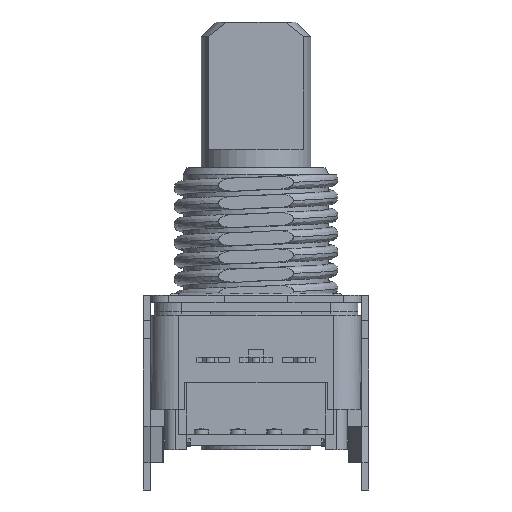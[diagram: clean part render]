
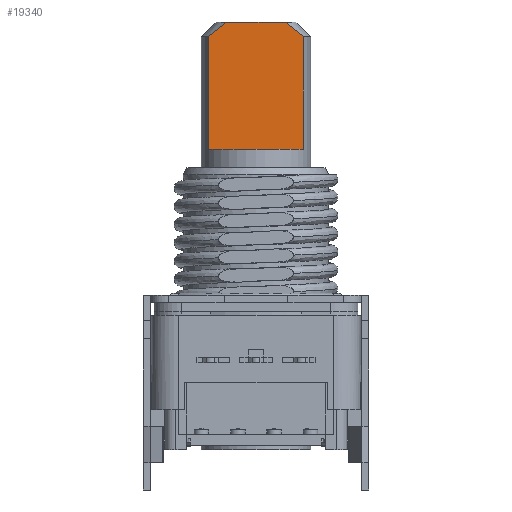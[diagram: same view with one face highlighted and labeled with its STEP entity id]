
A CAD part, front view. The second image highlights one B-rep face of the part: STEP entity #19340.
In plain terms, the highlighted planar face has unit normal (-0.001, -1, 0).
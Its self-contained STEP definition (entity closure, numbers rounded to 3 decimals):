
#19213=CARTESIAN_POINT('',(1.608,-1.501,22.49));
#19214=VERTEX_POINT('',#19213);
#19215=CARTESIAN_POINT('',(2.597,-1.502,21.69));
#19216=VERTEX_POINT('',#19215);
#19217=CARTESIAN_POINT('',(1.608,-1.501,22.49));
#19218=CARTESIAN_POINT('',(2.026,-1.502,22.184));
#19219=CARTESIAN_POINT('',(2.597,-1.502,21.69));
#19227=(BOUNDED_CURVE()B_SPLINE_CURVE(2,(#19217,#19218,#19219),.UNSPECIFIED.,.F.,.U.)B_SPLINE_CURVE_WITH_KNOTS((3,3),(0.0,0.242),.UNSPECIFIED.)CURVE()GEOMETRIC_REPRESENTATION_ITEM()RATIONAL_B_SPLINE_CURVE((1.0,1.076,1.117))REPRESENTATION_ITEM(''));
#19228=EDGE_CURVE('',#19214,#19216,#19227,.T.);
#19230=CARTESIAN_POINT('',(-2.599,-1.498,21.69));
#19231=VERTEX_POINT('',#19230);
#19239=CARTESIAN_POINT('',(-1.611,-1.499,22.49));
#19240=VERTEX_POINT('',#19239);
#19241=CARTESIAN_POINT('',(-2.599,-1.498,21.69));
#19242=CARTESIAN_POINT('',(-2.029,-1.498,22.184));
#19243=CARTESIAN_POINT('',(-1.611,-1.499,22.49));
#19251=(BOUNDED_CURVE()B_SPLINE_CURVE(2,(#19241,#19242,#19243),.UNSPECIFIED.,.F.,.U.)B_SPLINE_CURVE_WITH_KNOTS((3,3),(0.782,1.024),.UNSPECIFIED.)CURVE()GEOMETRIC_REPRESENTATION_ITEM()RATIONAL_B_SPLINE_CURVE((1.117,1.076,1.0))REPRESENTATION_ITEM(''));
#19252=EDGE_CURVE('',#19231,#19240,#19251,.T.);
#19270=CARTESIAN_POINT('',(2.597,-1.502,15.49));
#19271=VERTEX_POINT('',#19270);
#19272=CARTESIAN_POINT('',(2.597,-1.502,21.69));
#19273=DIRECTION('',(0.0,0.0,-1.0));
#19274=VECTOR('',#19273,6.2);
#19275=LINE('',#19272,#19274);
#19276=EDGE_CURVE('',#19216,#19271,#19275,.T.);
#19278=CARTESIAN_POINT('',(-2.599,-1.498,15.49));
#19279=VERTEX_POINT('',#19278);
#19287=CARTESIAN_POINT('',(-2.599,-1.498,15.49));
#19288=DIRECTION('',(0.0,0.0,1.0));
#19289=VECTOR('',#19288,6.2);
#19290=LINE('',#19287,#19289);
#19291=EDGE_CURVE('',#19279,#19231,#19290,.T.);
#19313=CARTESIAN_POINT('',(2.597,-1.502,15.49));
#19314=DIRECTION('',(-1.,0.001,0.0));
#19315=VECTOR('',#19314,5.196);
#19316=LINE('',#19313,#19315);
#19317=EDGE_CURVE('',#19271,#19279,#19316,.T.);
#19322=CARTESIAN_POINT('',(7.108,-1.506,22.49));
#19323=DIRECTION('',(0.001,1.,0.));
#19324=DIRECTION('',(0.0,0.0,1.0));
#19325=AXIS2_PLACEMENT_3D('',#19322,#19323,#19324);
#19326=PLANE('',#19325);
#19327=ORIENTED_EDGE('',*,*,#19252,.F.);
#19328=ORIENTED_EDGE('',*,*,#19291,.F.);
#19329=ORIENTED_EDGE('',*,*,#19317,.F.);
#19330=ORIENTED_EDGE('',*,*,#19276,.F.);
#19331=ORIENTED_EDGE('',*,*,#19228,.F.);
#19332=CARTESIAN_POINT('',(-1.611,-1.499,22.49));
#19333=DIRECTION('',(1.,-0.001,0.0));
#19334=VECTOR('',#19333,3.219);
#19335=LINE('',#19332,#19334);
#19336=EDGE_CURVE('',#19240,#19214,#19335,.T.);
#19337=ORIENTED_EDGE('',*,*,#19336,.F.);
#19338=EDGE_LOOP('',(#19327,#19328,#19329,#19330,#19331,#19337));
#19339=FACE_OUTER_BOUND('',#19338,.T.);
#19340=ADVANCED_FACE('',(#19339),#19326,.F.);
